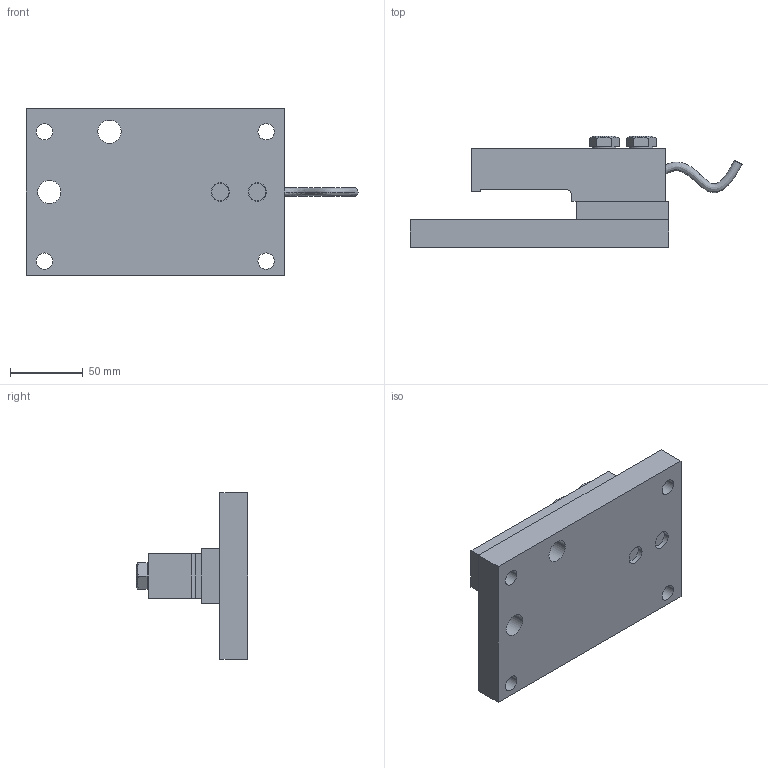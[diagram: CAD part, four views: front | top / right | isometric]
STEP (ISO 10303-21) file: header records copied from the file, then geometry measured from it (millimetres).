
FILE_DESCRIPTION((''),'2;1');
FILE_NAME('72209168_ASM','2012-02-02T',('ji-11'),(''),'PRO/ENGINEER BY PARAMETRIC TECHNOLOGY CORPORATION, 2006010','PRO/ENGINEER BY PARAMETRIC TECHNOLOGY CORPORATION, 2006010','');
FILE_SCHEMA(('CONFIG_CONTROL_DESIGN'));
Length unit declared in the file: millimetre
Products named in the file (1): 72209168_ASM
Bounding box: 228.27 x 76.54 x 114.3 mm (x, y, z)
Volume: 535865.1 mm3; surface area: 86338.8 mm2
Topology: 1 solids, 1 shells, 80 faces, 193 edges, 126 vertices
Faces by surface type: plane 43, cylinder 29, cone 6, bspline 2
Entity records: 3240 total; most frequent: CARTESIAN_POINT 1282, DIRECTION 395, ORIENTED_EDGE 386, EDGE_CURVE 193, AXIS2_PLACEMENT_3D 142, VERTEX_POINT 126, VECTOR 111, LINE 111
